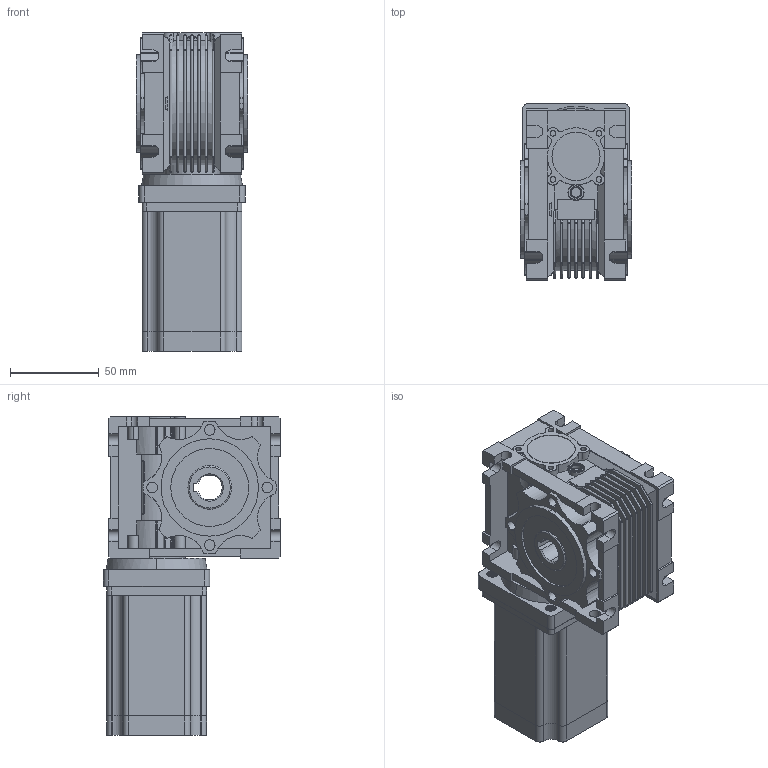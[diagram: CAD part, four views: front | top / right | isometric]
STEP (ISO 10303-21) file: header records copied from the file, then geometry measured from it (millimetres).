
FILE_DESCRIPTION (( 'STEP AP203' ), '1' );
FILE_NAME ('NMRV030-EA5722A郪磁.STEP', '2023-12-05T08:01:27', ( '' ), ( '' ), 'SwSTEP 2.0', 'SolidWorks 2020', '' );
FILE_SCHEMA (( 'CONFIG_CONTROL_DESIGN' ));
Products named in the file (3): RV30-25 57  8-14(1).stp; EA5722A.step; NMRV030-EA5722A郪磁
Assembly tree (2 placements, depth 2):
  NMRV030-EA5722A郪磁
    RV30-25 57  8-14(1).stp
    EA5722A.step
Bounding box: 63 x 100 x 180 mm (x, y, z)
Volume: 599416.4 mm3; surface area: 135679.6 mm2
Topology: 5 solids, 6 shells, 1506 faces, 4178 edges, 2684 vertices
Faces by surface type: plane 673, cylinder 594, bspline 128, sphere 64, cone 29, torus 18
Entity records: 88768 total; most frequent: CARTESIAN_POINT 51501, ORIENTED_EDGE 8200, DIRECTION 7071, EDGE_CURVE 4100, VERTEX_POINT 2653, VECTOR 2363, LINE 2363, AXIS2_PLACEMENT_3D 2354
